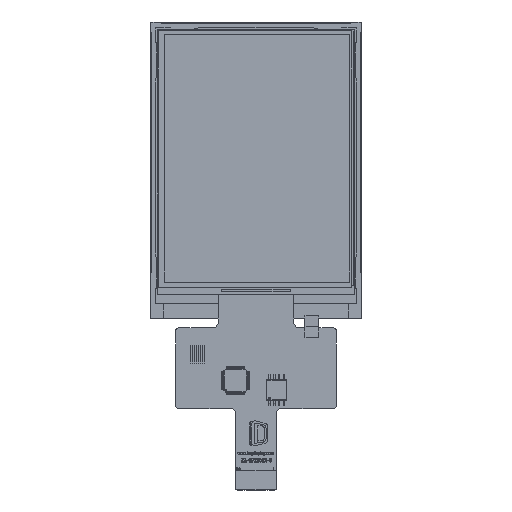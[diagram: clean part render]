
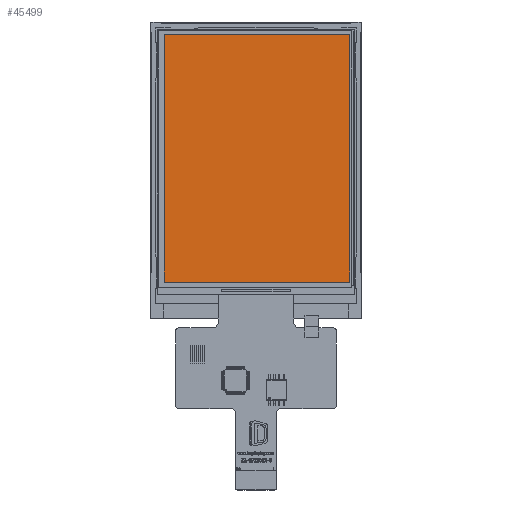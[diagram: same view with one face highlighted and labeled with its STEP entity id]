
A CAD part, top view. The second image highlights one B-rep face of the part: STEP entity #45499.
In plain terms, the highlighted planar face has unit normal (0, 0, 1).
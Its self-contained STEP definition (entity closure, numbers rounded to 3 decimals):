
#1160 = CARTESIAN_POINT ( 'NONE',  ( -24.02, 34.33, -0.2 ) ) ;
#7743 = LINE ( 'NONE', #67276, #54994 ) ;
#9016 = DIRECTION ( 'NONE',  ( 1., 0., 0. ) ) ;
#9511 = EDGE_CURVE ( 'NONE', #21488, #61517, #24480, .T. ) ;
#9579 = CARTESIAN_POINT ( 'NONE',  ( -24.02, 0., -0.2 ) ) ;
#12281 = VERTEX_POINT ( 'NONE', #1160 ) ;
#17546 = VERTEX_POINT ( 'NONE', #57927 ) ;
#17759 = EDGE_LOOP ( 'NONE', ( #54713, #42426, #18748, #23291 ) ) ;
#18748 = ORIENTED_EDGE ( 'NONE', *, *, #9511, .F. ) ;
#21488 = VERTEX_POINT ( 'NONE', #68170 ) ;
#23291 = ORIENTED_EDGE ( 'NONE', *, *, #54486, .F. ) ;
#24480 = LINE ( 'NONE', #64969, #30814 ) ;
#24704 = AXIS2_PLACEMENT_3D ( 'NONE', #50621, #73193, #9016 ) ;
#30814 = VECTOR ( 'NONE', #59499, 1000. ) ;
#35136 = CARTESIAN_POINT ( 'NONE',  ( 24.58, -30.47, -0.2 ) ) ;
#36177 = DIRECTION ( 'NONE',  ( -1., 0., 0. ) ) ;
#38972 = FACE_OUTER_BOUND ( 'NONE', #17759, .T. ) ;
#39517 = DIRECTION ( 'NONE',  ( 0., 1., 0. ) ) ;
#41496 = CARTESIAN_POINT ( 'NONE',  ( 0., 34.33, -0.2 ) ) ;
#42426 = ORIENTED_EDGE ( 'NONE', *, *, #76935, .F. ) ;
#45499 = ADVANCED_FACE ( 'NONE', ( #38972 ), #49465, .T. ) ;
#49465 = PLANE ( 'NONE',  #24704 ) ;
#50621 = CARTESIAN_POINT ( 'NONE',  ( 0., 0., -0.2 ) ) ;
#54486 = EDGE_CURVE ( 'NONE', #12281, #21488, #57830, .T. ) ;
#54713 = ORIENTED_EDGE ( 'NONE', *, *, #64764, .F. ) ;
#54994 = VECTOR ( 'NONE', #36177, 1000. ) ;
#57830 = LINE ( 'NONE', #41496, #71608 ) ;
#57927 = CARTESIAN_POINT ( 'NONE',  ( -24.02, -30.47, -0.2 ) ) ;
#59499 = DIRECTION ( 'NONE',  ( 0., -1., 0. ) ) ;
#61517 = VERTEX_POINT ( 'NONE', #35136 ) ;
#64053 = DIRECTION ( 'NONE',  ( 1., 0., 0. ) ) ;
#64397 = LINE ( 'NONE', #9579, #69184 ) ;
#64764 = EDGE_CURVE ( 'NONE', #17546, #12281, #64397, .T. ) ;
#64969 = CARTESIAN_POINT ( 'NONE',  ( 24.58, 0., -0.2 ) ) ;
#67276 = CARTESIAN_POINT ( 'NONE',  ( 0., -30.47, -0.2 ) ) ;
#68170 = CARTESIAN_POINT ( 'NONE',  ( 24.58, 34.33, -0.2 ) ) ;
#69184 = VECTOR ( 'NONE', #39517, 1000. ) ;
#71608 = VECTOR ( 'NONE', #64053, 1000. ) ;
#73193 = DIRECTION ( 'NONE',  ( 0., 0., 1. ) ) ;
#76935 = EDGE_CURVE ( 'NONE', #61517, #17546, #7743, .T. ) ;
